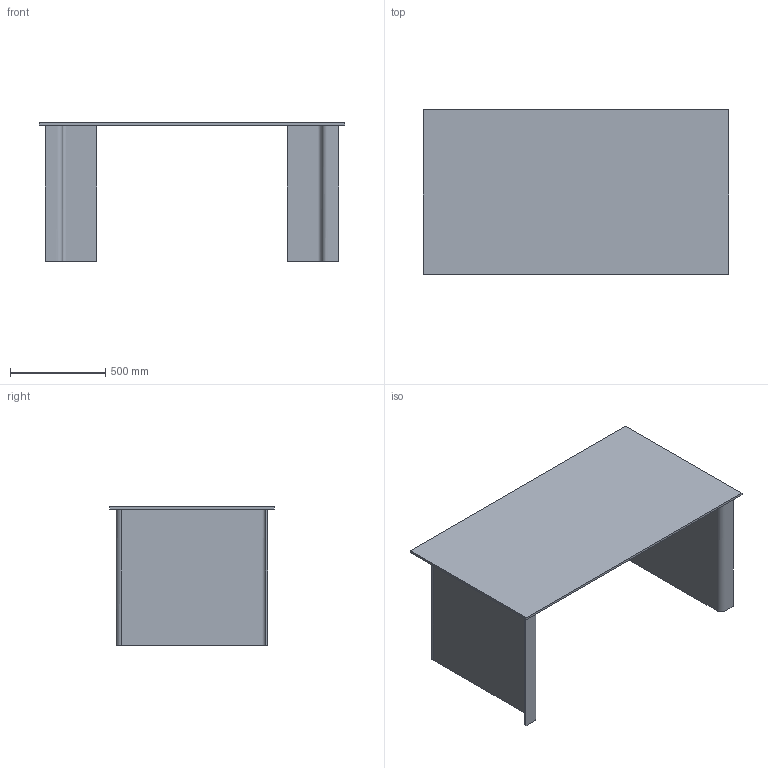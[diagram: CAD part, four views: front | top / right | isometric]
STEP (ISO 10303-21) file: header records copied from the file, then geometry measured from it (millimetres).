
FILE_DESCRIPTION(/* description */ (''),/* implementation_level */ '2;1');
FILE_NAME(/* name */ 'S1326 - Luminare Small Office 160x86',/* time_stamp */ '2010-12-10T10:35:58+01:00',/* author */ (''),/* organization */ (''),/* preprocessor_version */ 'ST-DEVELOPER v10',/* originating_system */ '',/* authorisation */ '');
FILE_SCHEMA (('CONFIG_CONTROL_DESIGN'));
Length unit declared in the file: centimetre
Products named in the file (1): 1
Bounding box: 1600 x 860 x 726 mm (x, y, z)
Volume: 16517709 mm3; surface area: 5774727.4 mm2
Topology: 9 solids, 11 shells, 48 faces, 90 edges, 60 vertices
Faces by surface type: plane 26, bspline 22
Entity records: 1508 total; most frequent: CARTESIAN_POINT 813, ORIENTED_EDGE 160, EDGE_CURVE 90, VERTEX_POINT 60, ADVANCED_FACE 48, FACE_OUTER_BOUND 48, EDGE_LOOP 48, B_SPLINE_CURVE_WITH_KNOTS 46
